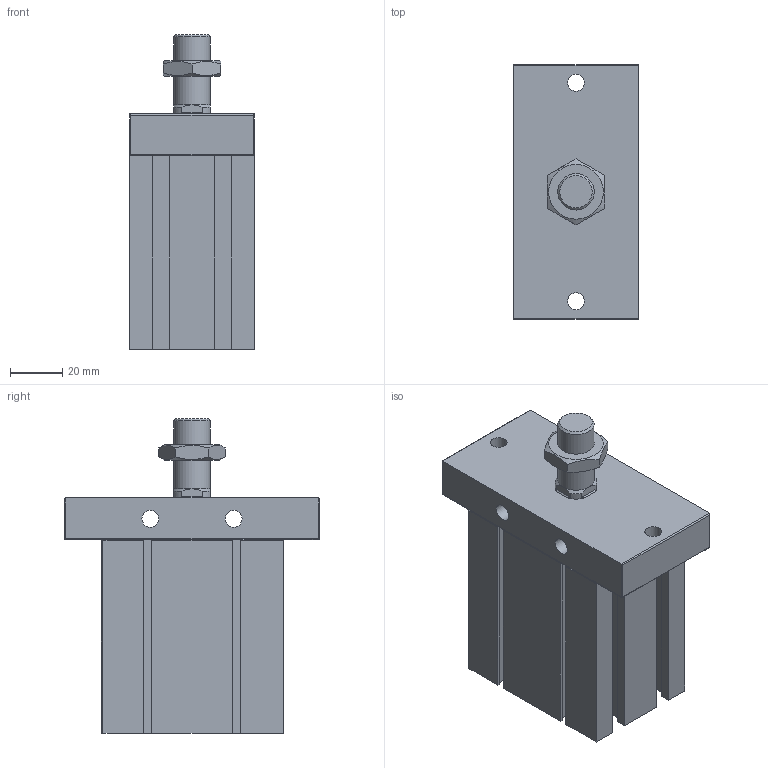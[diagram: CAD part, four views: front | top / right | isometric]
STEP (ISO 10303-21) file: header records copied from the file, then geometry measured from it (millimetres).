
FILE_DESCRIPTION((''),'2;1');
FILE_NAME('J:\3D電子目錄\氣缸\ND\ND\ND40-FBS\ND40x30-FBS.stp','2008-03-13T10:21:29',('66-2f-008'),(''),'Autodesk Inventor 11','Autodesk Inventor 11','');
FILE_SCHEMA(('AUTOMOTIVE_DESIGN { 1 0 10303 214 1 1 1 1 }'));
Length unit declared in the file: millimetre
Products named in the file (1): ND40-FBS
Bounding box: 48 x 98 x 121 mm (x, y, z)
Volume: 297797.9 mm3; surface area: 48228.9 mm2
Topology: 2 solids, 2 shells, 153 faces, 391 edges, 251 vertices
Faces by surface type: plane 99, cylinder 23, cone 14, bspline 14, sphere 2, torus 1
Full cylindrical faces by diameter (mm): 2.2 x2, 6.5 x2, 14 x2, 29 x1, 42 x1, 44.5 x1
Entity records: 4520 total; most frequent: CARTESIAN_POINT 976, ORIENTED_EDGE 708, DIRECTION 698, EDGE_CURVE 354, VECTOR 250, LINE 250, VERTEX_POINT 246, AXIS2_PLACEMENT_3D 224
